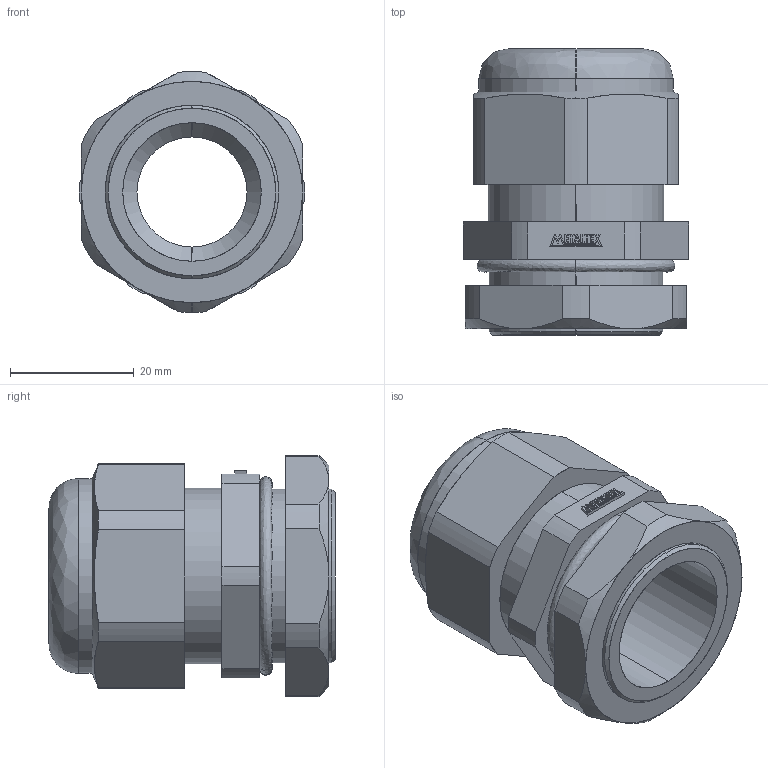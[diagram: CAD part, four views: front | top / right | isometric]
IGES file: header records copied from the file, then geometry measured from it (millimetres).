
Start section: SolidWorks IGES file using analytic representation for surfaces
Global section: file name: D:\X - Arquivos\PROEX\Empresas\P11 - METALTEX\01 - Produtos\IGES\Terceira remessa\Etapa 2\CH-PG21.IGS; native system: SolidWorks 2012; preprocessor: SolidWorks 2012; author: Usuario; date: 180207.123623; units: millimetre
Bounding box: 36.49 x 46.3 x 39 mm (x, y, z)
Surface area: 10652.3 mm2 (no closed solid volume)
Topology: 0 solids, 0 shells, 174 faces, 1483 edges, 1483 vertices
Faces by surface type: bspline 125, revolution 49
